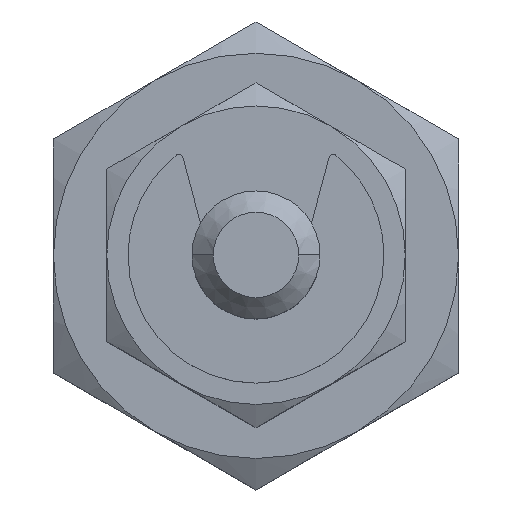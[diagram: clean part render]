
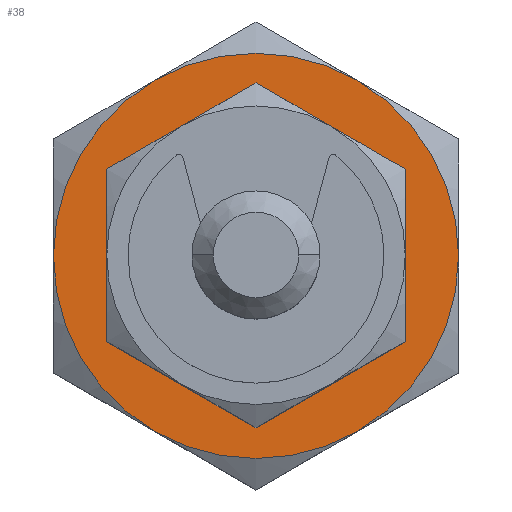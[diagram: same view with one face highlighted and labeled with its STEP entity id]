
A CAD part, top view. The second image highlights one B-rep face of the part: STEP entity #38.
In plain terms, the highlighted planar face has unit normal (0, 0, 1).
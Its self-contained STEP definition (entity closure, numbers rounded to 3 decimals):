
#19 = CARTESIAN_POINT ( 'NONE',  ( 0., 0., 6. ) ) ;
#38 = ADVANCED_FACE ( 'NONE', ( #1557, #2049 ), #62, .T. ) ;
#62 = PLANE ( 'NONE',  #1003 ) ;
#72 = AXIS2_PLACEMENT_3D ( 'NONE', #19, #152, #992 ) ;
#103 = EDGE_CURVE ( 'NONE', #815, #863, #1903, .T. ) ;
#150 = CIRCLE ( 'NONE', #464, 9.5 ) ;
#152 = DIRECTION ( 'NONE',  ( 0., 0., 1. ) ) ;
#178 = AXIS2_PLACEMENT_3D ( 'NONE', #1235, #1561, #1058 ) ;
#184 = VERTEX_POINT ( 'NONE', #248 ) ;
#195 = DIRECTION ( 'NONE',  ( 0., 0., 1. ) ) ;
#212 = ORIENTED_EDGE ( 'NONE', *, *, #342, .F. ) ;
#231 = DIRECTION ( 'NONE',  ( 0., 0., -1. ) ) ;
#248 = CARTESIAN_POINT ( 'NONE',  ( 9.5, 0., 6. ) ) ;
#293 = VERTEX_POINT ( 'NONE', #982 ) ;
#309 = CIRCLE ( 'NONE', #799, 9.5 ) ;
#342 = EDGE_CURVE ( 'NONE', #1062, #293, #1901, .T. ) ;
#358 = CARTESIAN_POINT ( 'NONE',  ( -4.75, -8.227, 6. ) ) ;
#361 = ORIENTED_EDGE ( 'NONE', *, *, #588, .F. ) ;
#386 = CARTESIAN_POINT ( 'NONE',  ( -9.5, 16.454, 6. ) ) ;
#440 = DIRECTION ( 'NONE',  ( -1., 0., 0. ) ) ;
#442 = VERTEX_POINT ( 'NONE', #881 ) ;
#464 = AXIS2_PLACEMENT_3D ( 'NONE', #1327, #1626, #1991 ) ;
#506 = DIRECTION ( 'NONE',  ( 0., 0., 1. ) ) ;
#515 = CARTESIAN_POINT ( 'NONE',  ( 0., 0., 6. ) ) ;
#518 = CIRCLE ( 'NONE', #764, 9.5 ) ;
#544 = DIRECTION ( 'NONE',  ( 0., 0., -1. ) ) ;
#581 = DIRECTION ( 'NONE',  ( -1., 0., 0. ) ) ;
#588 = EDGE_CURVE ( 'NONE', #184, #1276, #309, .T. ) ;
#739 = CARTESIAN_POINT ( 'NONE',  ( 0., 0., 6. ) ) ;
#764 = AXIS2_PLACEMENT_3D ( 'NONE', #1577, #231, #440 ) ;
#799 = AXIS2_PLACEMENT_3D ( 'NONE', #947, #1077, #1097 ) ;
#801 = AXIS2_PLACEMENT_3D ( 'NONE', #739, #2064, #581 ) ;
#815 = VERTEX_POINT ( 'NONE', #1451 ) ;
#863 = VERTEX_POINT ( 'NONE', #1995 ) ;
#881 = CARTESIAN_POINT ( 'NONE',  ( -9.5, 0., 6. ) ) ;
#887 = ORIENTED_EDGE ( 'NONE', *, *, #1351, .F. ) ;
#891 = CARTESIAN_POINT ( 'NONE',  ( -6., 0., 6. ) ) ;
#903 = AXIS2_PLACEMENT_3D ( 'NONE', #1359, #544, #1396 ) ;
#934 = ORIENTED_EDGE ( 'NONE', *, *, #2119, .F. ) ;
#947 = CARTESIAN_POINT ( 'NONE',  ( 0., 0., 6. ) ) ;
#954 = ORIENTED_EDGE ( 'NONE', *, *, #1133, .F. ) ;
#979 = ORIENTED_EDGE ( 'NONE', *, *, #103, .F. ) ;
#982 = CARTESIAN_POINT ( 'NONE',  ( 6., 0., 6. ) ) ;
#985 = EDGE_LOOP ( 'NONE', ( #361, #1088, #979, #934, #1990, #954 ) ) ;
#992 = DIRECTION ( 'NONE',  ( 1., 0., 0. ) ) ;
#1003 = AXIS2_PLACEMENT_3D ( 'NONE', #386, #195, #1338 ) ;
#1026 = EDGE_CURVE ( 'NONE', #1810, #442, #518, .T. ) ;
#1058 = DIRECTION ( 'NONE',  ( -1., 0., 0. ) ) ;
#1062 = VERTEX_POINT ( 'NONE', #891 ) ;
#1077 = DIRECTION ( 'NONE',  ( 0., 0., -1. ) ) ;
#1088 = ORIENTED_EDGE ( 'NONE', *, *, #1435, .F. ) ;
#1097 = DIRECTION ( 'NONE',  ( -1., 0., 0. ) ) ;
#1111 = AXIS2_PLACEMENT_3D ( 'NONE', #515, #506, #1185 ) ;
#1133 = EDGE_CURVE ( 'NONE', #1276, #1810, #1414, .T. ) ;
#1185 = DIRECTION ( 'NONE',  ( 1., 0., 0. ) ) ;
#1235 = CARTESIAN_POINT ( 'NONE',  ( 0., 0., 6. ) ) ;
#1276 = VERTEX_POINT ( 'NONE', #1313 ) ;
#1284 = EDGE_LOOP ( 'NONE', ( #212, #887 ) ) ;
#1313 = CARTESIAN_POINT ( 'NONE',  ( 4.75, -8.227, 6. ) ) ;
#1327 = CARTESIAN_POINT ( 'NONE',  ( 0., 0., 6. ) ) ;
#1338 = DIRECTION ( 'NONE',  ( 1., 0., 0. ) ) ;
#1351 = EDGE_CURVE ( 'NONE', #293, #1062, #1524, .T. ) ;
#1359 = CARTESIAN_POINT ( 'NONE',  ( 0., 0., 6. ) ) ;
#1378 = CIRCLE ( 'NONE', #178, 9.5 ) ;
#1396 = DIRECTION ( 'NONE',  ( -1., 0., 0. ) ) ;
#1414 = CIRCLE ( 'NONE', #801, 9.5 ) ;
#1435 = EDGE_CURVE ( 'NONE', #863, #184, #1378, .T. ) ;
#1451 = CARTESIAN_POINT ( 'NONE',  ( -4.75, 8.227, 6. ) ) ;
#1524 = CIRCLE ( 'NONE', #1111, 6. ) ;
#1557 = FACE_OUTER_BOUND ( 'NONE', #985, .T. ) ;
#1561 = DIRECTION ( 'NONE',  ( 0., 0., -1. ) ) ;
#1577 = CARTESIAN_POINT ( 'NONE',  ( 0., 0., 6. ) ) ;
#1626 = DIRECTION ( 'NONE',  ( 0., 0., -1. ) ) ;
#1810 = VERTEX_POINT ( 'NONE', #358 ) ;
#1901 = CIRCLE ( 'NONE', #72, 6. ) ;
#1903 = CIRCLE ( 'NONE', #903, 9.5 ) ;
#1990 = ORIENTED_EDGE ( 'NONE', *, *, #1026, .F. ) ;
#1991 = DIRECTION ( 'NONE',  ( -1., 0., 0. ) ) ;
#1995 = CARTESIAN_POINT ( 'NONE',  ( 4.75, 8.227, 6. ) ) ;
#2049 = FACE_BOUND ( 'NONE', #1284, .T. ) ;
#2064 = DIRECTION ( 'NONE',  ( 0., 0., -1. ) ) ;
#2119 = EDGE_CURVE ( 'NONE', #442, #815, #150, .T. ) ;
